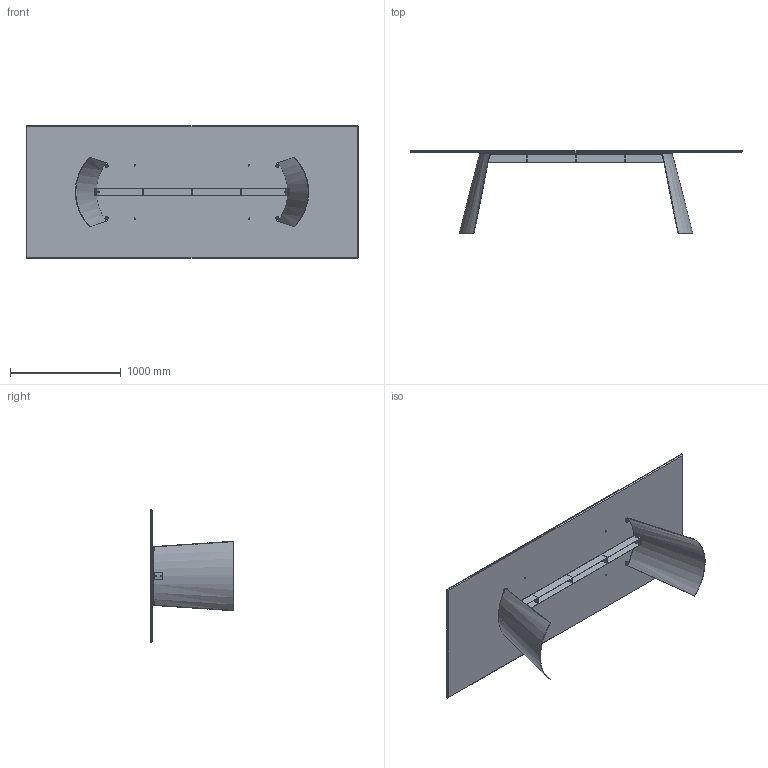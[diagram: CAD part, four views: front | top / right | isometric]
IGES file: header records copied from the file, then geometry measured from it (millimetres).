
Start section: SolidWorks IGES file using analytic representation for surfaces
Global section: file name: Y:\eforma\TECNICO\SOLIDWORKS\E-FORMA\1-TAVOLI\DORIAN\02 parts-rev 01\DN24C.IGS; native system: SolidWorks 2022; preprocessor: SolidWorks 2022; author: eforma.tech; date: 240807.171159; units: millimetre
Bounding box: 3000 x 746 x 1200 mm (x, y, z)
Volume: 63453356.1 mm3; surface area: 17282138.8 mm2
Topology: 48 solids, 48 shells, 632 faces, 1480 edges, 944 vertices
Faces by surface type: revolution 338, plane 276, bspline 18
